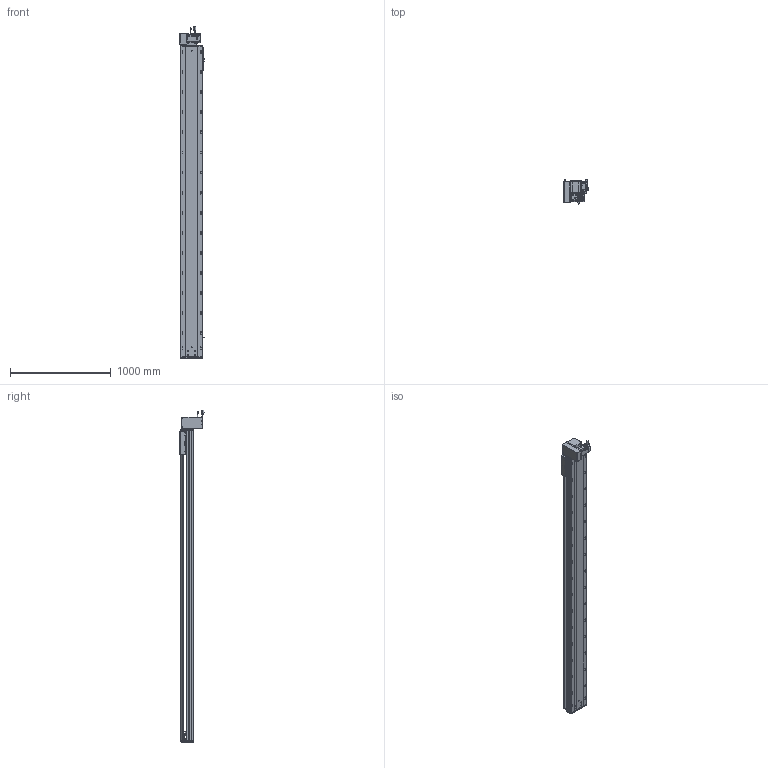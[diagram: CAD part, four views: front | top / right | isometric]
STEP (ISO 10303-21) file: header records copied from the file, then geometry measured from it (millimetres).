
FILE_DESCRIPTION (( 'STEP AP203' ), '1' );
FILE_NAME ('RY220-T-300-DL.SLDASM_2750.step', '2022-07-25T07:55:08', ( '' ), ( '' ), 'SwSTEP 2.0', 'SolidWorks 2016', '' );
FILE_SCHEMA (( 'CONFIG_CONTROL_DESIGN' ));
Length unit declared in the file: millimetre
Products named in the file (14): RY220翋肮祭謫裔啣; RY220-俋离672覜茼んえ; RY220-同步轮副支撑座6304×2; RY220-T-300-DL.SLDASM_2750; 覜茼ん672; 110A-T-肮祭謫釱傷裔; RY220-T菁釱-300_2750; RY220-T-300-奻裔啣_2750; RY220-T-蛌殏萇儂假蚾啣(750W); RY220-T-湍謫欶(鍼踢); RY220翋肮祭謫釱; 滅袉蝶18-15; RY220圉猾敕々湍臏賑輸; 怢湛750W_ECMA-CX0807ES
Assembly tree (18 placements, depth 2):
  RY220-T-300-DL.SLDASM_2750
    RY220-T菁釱-300_2750
    RY220翋肮祭謫釱
    覜茼ん672  x3
    RY220圉猾敕々湍臏賑輸
    RY220-T-300-奻裔啣_2750
    RY220-俋离672覜茼んえ
    滅袉蝶18-15  x3
    RY220翋肮祭謫裔啣  x2
    110A-T-肮祭謫釱傷裔
    怢湛750W_ECMA-CX0807ES
    RY220-T-湍謫欶(鍼踢)
    RY220-T-蛌殏萇儂假蚾啣(750W)
    RY220-同步轮副支撑座6304×2
Bounding box: 239.7 x 240.74 x 3303.27 mm (x, y, z)
Volume: 23585506.5 mm3; surface area: 7271844 mm2
Topology: 19 solids, 19 shells, 2982 faces, 8247 edges, 5168 vertices
Faces by surface type: cylinder 1466, plane 1069, cone 365, bspline 56, sphere 16, torus 10
Entity records: 99411 total; most frequent: CARTESIAN_POINT 28053, ORIENTED_EDGE 14746, DIRECTION 14224, EDGE_CURVE 7373, AXIS2_PLACEMENT_3D 5128, VERTEX_POINT 4792, VECTOR 3968, LINE 3968
